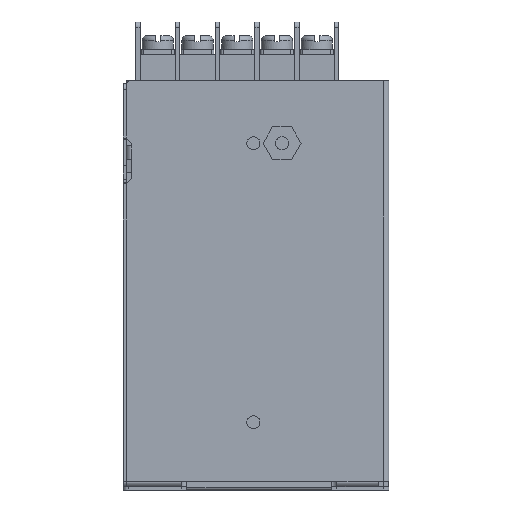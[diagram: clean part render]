
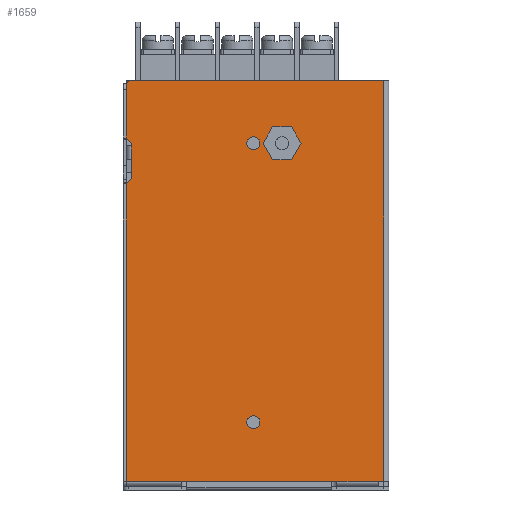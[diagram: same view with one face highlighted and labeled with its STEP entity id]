
A CAD part, front view. The second image highlights one B-rep face of the part: STEP entity #1659.
In plain terms, the highlighted planar face has unit normal (0, -1, 0).
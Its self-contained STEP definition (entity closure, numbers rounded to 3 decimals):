
#485=FACE_BOUND('',#3793,.F.);
#486=FACE_BOUND('',#3794,.F.);
#487=FACE_BOUND('',#3795,.F.);
#1659=ADVANCED_FACE('',(#485,#486,#487,#2519),#9341,.T.);
#2519=FACE_OUTER_BOUND('',#3796,.F.);
#3793=EDGE_LOOP('',(#8004,#8005));
#3794=EDGE_LOOP('',(#8006,#8007));
#3795=EDGE_LOOP('',(#8008,#8009,#8010,#8011,#8012,#8013));
#3796=EDGE_LOOP('',(#8014,#8015,#8016,#8017,#8018,#8019,#8020,#8021,#8022,
#8023,#8024,#8025,#8026,#8027,#8028));
#8004=ORIENTED_EDGE('',*,*,#12537,.T.);
#8005=ORIENTED_EDGE('',*,*,#12452,.T.);
#8006=ORIENTED_EDGE('',*,*,#12536,.T.);
#8007=ORIENTED_EDGE('',*,*,#12448,.T.);
#8008=ORIENTED_EDGE('',*,*,#12530,.T.);
#8009=ORIENTED_EDGE('',*,*,#12531,.T.);
#8010=ORIENTED_EDGE('',*,*,#12532,.T.);
#8011=ORIENTED_EDGE('',*,*,#12533,.T.);
#8012=ORIENTED_EDGE('',*,*,#12534,.T.);
#8013=ORIENTED_EDGE('',*,*,#12535,.T.);
#8014=ORIENTED_EDGE('',*,*,#12519,.F.);
#8015=ORIENTED_EDGE('',*,*,#12520,.T.);
#8016=ORIENTED_EDGE('',*,*,#12521,.F.);
#8017=ORIENTED_EDGE('',*,*,#12405,.T.);
#8018=ORIENTED_EDGE('',*,*,#12522,.T.);
#8019=ORIENTED_EDGE('',*,*,#12480,.T.);
#8020=ORIENTED_EDGE('',*,*,#12523,.F.);
#8021=ORIENTED_EDGE('',*,*,#12478,.T.);
#8022=ORIENTED_EDGE('',*,*,#12524,.T.);
#8023=ORIENTED_EDGE('',*,*,#12408,.T.);
#8024=ORIENTED_EDGE('',*,*,#12525,.T.);
#8025=ORIENTED_EDGE('',*,*,#12526,.F.);
#8026=ORIENTED_EDGE('',*,*,#12527,.T.);
#8027=ORIENTED_EDGE('',*,*,#12528,.F.);
#8028=ORIENTED_EDGE('',*,*,#12529,.T.);
#9341=PLANE('',#19429);
#10401=CIRCLE('',#18593,1.25);
#10403=CIRCLE('',#18595,1.25);
#10421=CIRCLE('',#18613,1.);
#10422=CIRCLE('',#18614,1.25);
#10423=CIRCLE('',#18615,1.25);
#12405=EDGE_CURVE('',#16542,#16541,#14096,.T.);
#12408=EDGE_CURVE('',#16540,#16539,#14099,.T.);
#12448=EDGE_CURVE('',#16451,#16452,#10401,.T.);
#12452=EDGE_CURVE('',#16447,#16448,#10403,.T.);
#12478=EDGE_CURVE('',#16424,#16425,#14147,.T.);
#12480=EDGE_CURVE('',#16423,#16422,#14149,.T.);
#12519=EDGE_CURVE('',#16393,#16392,#14178,.T.);
#12520=EDGE_CURVE('',#16393,#16391,#14179,.T.);
#12521=EDGE_CURVE('',#16542,#16391,#14180,.T.);
#12522=EDGE_CURVE('',#16541,#16423,#14181,.T.);
#12523=EDGE_CURVE('',#16424,#16422,#14182,.T.);
#12524=EDGE_CURVE('',#16425,#16540,#14183,.T.);
#12525=EDGE_CURVE('',#16539,#16390,#14184,.T.);
#12526=EDGE_CURVE('',#16389,#16390,#10421,.T.);
#12527=EDGE_CURVE('',#16389,#16388,#14185,.T.);
#12528=EDGE_CURVE('',#16387,#16388,#14186,.T.);
#12529=EDGE_CURVE('',#16387,#16392,#14187,.T.);
#12530=EDGE_CURVE('',#16386,#16385,#14188,.T.);
#12531=EDGE_CURVE('',#16385,#16384,#14189,.T.);
#12532=EDGE_CURVE('',#16384,#16383,#14190,.T.);
#12533=EDGE_CURVE('',#16383,#16382,#14191,.T.);
#12534=EDGE_CURVE('',#16382,#16381,#14192,.T.);
#12535=EDGE_CURVE('',#16381,#16386,#14193,.T.);
#12536=EDGE_CURVE('',#16452,#16451,#10422,.T.);
#12537=EDGE_CURVE('',#16448,#16447,#10423,.T.);
#14096=LINE('',#28424,#15543);
#14099=LINE('',#28427,#15546);
#14147=LINE('',#28497,#15594);
#14149=LINE('',#28499,#15596);
#14178=LINE('',#28538,#15625);
#14179=LINE('',#28539,#15626);
#14180=LINE('',#28540,#15627);
#14181=LINE('',#28541,#15628);
#14182=LINE('',#28542,#15629);
#14183=LINE('',#28543,#15630);
#14184=LINE('',#28544,#15631);
#14185=LINE('',#28546,#15632);
#14186=LINE('',#28547,#15633);
#14187=LINE('',#28548,#15634);
#14188=LINE('',#28549,#15635);
#14189=LINE('',#28550,#15636);
#14190=LINE('',#28551,#15637);
#14191=LINE('',#28552,#15638);
#14192=LINE('',#28553,#15639);
#14193=LINE('',#28554,#15640);
#15543=VECTOR('',#22328,57.1);
#15546=VECTOR('',#22331,9.39);
#15594=VECTOR('',#22423,0.5);
#15596=VECTOR('',#22425,3.65);
#15625=VECTOR('',#22474,8.);
#15626=VECTOR('',#22475,29.75);
#15627=VECTOR('',#22476,10.65);
#15628=VECTOR('',#22477,1.414);
#15629=VECTOR('',#22478,2.65);
#15630=VECTOR('',#22479,1.414);
#15631=VECTOR('',#22480,0.61);
#15632=VECTOR('',#22483,48.4);
#15633=VECTOR('',#22484,76.9);
#15634=VECTOR('',#22485,1.);
#15635=VECTOR('',#22486,3.637);
#15636=VECTOR('',#22487,3.637);
#15637=VECTOR('',#22488,3.637);
#15638=VECTOR('',#22489,3.637);
#15639=VECTOR('',#22490,3.637);
#15640=VECTOR('',#22491,3.637);
#16381=VERTEX_POINT('',#25267);
#16382=VERTEX_POINT('',#25268);
#16383=VERTEX_POINT('',#25269);
#16384=VERTEX_POINT('',#25270);
#16385=VERTEX_POINT('',#25271);
#16386=VERTEX_POINT('',#25272);
#16387=VERTEX_POINT('',#25273);
#16388=VERTEX_POINT('',#25274);
#16389=VERTEX_POINT('',#25275);
#16390=VERTEX_POINT('',#25276);
#16391=VERTEX_POINT('',#25277);
#16392=VERTEX_POINT('',#25278);
#16393=VERTEX_POINT('',#25279);
#16422=VERTEX_POINT('',#25308);
#16423=VERTEX_POINT('',#25309);
#16424=VERTEX_POINT('',#25310);
#16425=VERTEX_POINT('',#25311);
#16447=VERTEX_POINT('',#25333);
#16448=VERTEX_POINT('',#25334);
#16451=VERTEX_POINT('',#25337);
#16452=VERTEX_POINT('',#25338);
#16539=VERTEX_POINT('',#25425);
#16540=VERTEX_POINT('',#25426);
#16541=VERTEX_POINT('',#25427);
#16542=VERTEX_POINT('',#25428);
#18593=AXIS2_PLACEMENT_3D('',#28467,#22383,#22384);
#18595=AXIS2_PLACEMENT_3D('',#28471,#22389,#22390);
#18613=AXIS2_PLACEMENT_3D('',#28545,#22481,#22482);
#18614=AXIS2_PLACEMENT_3D('',#28555,#22492,#22493);
#18615=AXIS2_PLACEMENT_3D('',#28556,#22494,#22495);
#19429=AXIS2_PLACEMENT_3D('',#30150,#24512,#24513);
#22328=DIRECTION('',(0.,0.,1.));
#22331=DIRECTION('',(0.,0.,1.));
#22383=DIRECTION('',(0.,-1.,0.));
#22384=DIRECTION('',(0.,0.,1.));
#22389=DIRECTION('',(0.,-1.,0.));
#22390=DIRECTION('',(0.,0.,1.));
#22423=DIRECTION('',(0.,0.,1.));
#22425=DIRECTION('',(0.,0.,1.));
#22474=DIRECTION('',(1.,0.,0.));
#22475=DIRECTION('',(-1.,0.,0.));
#22476=DIRECTION('',(1.,0.,0.));
#22477=DIRECTION('',(0.707,0.,0.707));
#22478=DIRECTION('',(0.,0.,-1.));
#22479=DIRECTION('',(-0.707,0.,0.707));
#22480=DIRECTION('',(0.,0.,1.));
#22481=DIRECTION('',(0.,-1.,0.));
#22482=DIRECTION('',(0.,0.,1.));
#22483=DIRECTION('',(1.,0.,0.));
#22484=DIRECTION('',(0.,0.,1.));
#22485=DIRECTION('',(-1.,0.,0.));
#22486=DIRECTION('',(-1.,0.,0.));
#22487=DIRECTION('',(-0.5,0.,-0.866));
#22488=DIRECTION('',(0.5,0.,-0.866));
#22489=DIRECTION('',(1.,0.,0.));
#22490=DIRECTION('',(0.5,0.,0.866));
#22491=DIRECTION('',(-0.5,0.,0.866));
#22492=DIRECTION('',(0.,-1.,0.));
#22493=DIRECTION('',(0.,0.,-1.));
#22494=DIRECTION('',(0.,-1.,0.));
#22495=DIRECTION('',(0.,0.,-1.));
#24512=DIRECTION('',(0.,-1.,0.));
#24513=DIRECTION('',(0.,0.,-1.));
#25267=CARTESIAN_POINT('',(7.837,0.,-12.));
#25268=CARTESIAN_POINT('',(6.019,0.,-15.15));
#25269=CARTESIAN_POINT('',(2.381,0.,-15.15));
#25270=CARTESIAN_POINT('',(0.563,0.,-12.));
#25271=CARTESIAN_POINT('',(2.381,0.,-8.85));
#25272=CARTESIAN_POINT('',(6.019,0.,-8.85));
#25273=CARTESIAN_POINT('',(23.7,0.,-76.9));
#25274=CARTESIAN_POINT('',(23.7,0.,0.));
#25275=CARTESIAN_POINT('',(-24.7,0.,0.));
#25276=CARTESIAN_POINT('',(-25.7,0.,-1.));
#25277=CARTESIAN_POINT('',(-15.05,0.,-76.9));
#25278=CARTESIAN_POINT('',(22.7,0.,-76.9));
#25279=CARTESIAN_POINT('',(14.7,0.,-76.9));
#25308=CARTESIAN_POINT('',(-24.7,0.,-15.15));
#25309=CARTESIAN_POINT('',(-24.7,0.,-18.8));
#25310=CARTESIAN_POINT('',(-24.7,0.,-12.5));
#25311=CARTESIAN_POINT('',(-24.7,0.,-12.));
#25333=CARTESIAN_POINT('',(-1.3,0.,-10.75));
#25334=CARTESIAN_POINT('',(-1.3,0.,-13.25));
#25337=CARTESIAN_POINT('',(-1.3,0.,-64.25));
#25338=CARTESIAN_POINT('',(-1.3,0.,-66.75));
#25425=CARTESIAN_POINT('',(-25.7,0.,-1.61));
#25426=CARTESIAN_POINT('',(-25.7,0.,-11.));
#25427=CARTESIAN_POINT('',(-25.7,0.,-19.8));
#25428=CARTESIAN_POINT('',(-25.7,0.,-76.9));
#28424=CARTESIAN_POINT('',(-25.7,0.,-76.9));
#28427=CARTESIAN_POINT('',(-25.7,0.,-11.));
#28467=CARTESIAN_POINT('',(-1.3,0.,-65.5));
#28471=CARTESIAN_POINT('',(-1.3,0.,-12.));
#28497=CARTESIAN_POINT('',(-24.7,0.,-12.5));
#28499=CARTESIAN_POINT('',(-24.7,0.,-18.8));
#28538=CARTESIAN_POINT('',(14.7,0.,-76.9));
#28539=CARTESIAN_POINT('',(14.7,0.,-76.9));
#28540=CARTESIAN_POINT('',(-25.7,0.,-76.9));
#28541=CARTESIAN_POINT('',(-25.7,0.,-19.8));
#28542=CARTESIAN_POINT('',(-24.7,0.,-12.5));
#28543=CARTESIAN_POINT('',(-24.7,0.,-12.));
#28544=CARTESIAN_POINT('',(-25.7,0.,-1.61));
#28545=CARTESIAN_POINT('',(-24.7,0.,-1.));
#28546=CARTESIAN_POINT('',(-24.7,0.,0.));
#28547=CARTESIAN_POINT('',(23.7,0.,-76.9));
#28548=CARTESIAN_POINT('',(23.7,0.,-76.9));
#28549=CARTESIAN_POINT('',(6.019,0.,-8.85));
#28550=CARTESIAN_POINT('',(2.381,0.,-8.85));
#28551=CARTESIAN_POINT('',(0.563,0.,-12.));
#28552=CARTESIAN_POINT('',(2.381,0.,-15.15));
#28553=CARTESIAN_POINT('',(6.019,0.,-15.15));
#28554=CARTESIAN_POINT('',(7.837,0.,-12.));
#28555=CARTESIAN_POINT('',(-1.3,0.,-65.5));
#28556=CARTESIAN_POINT('',(-1.3,0.,-12.));
#30150=CARTESIAN_POINT('',(-29.545,0.,3.845));
